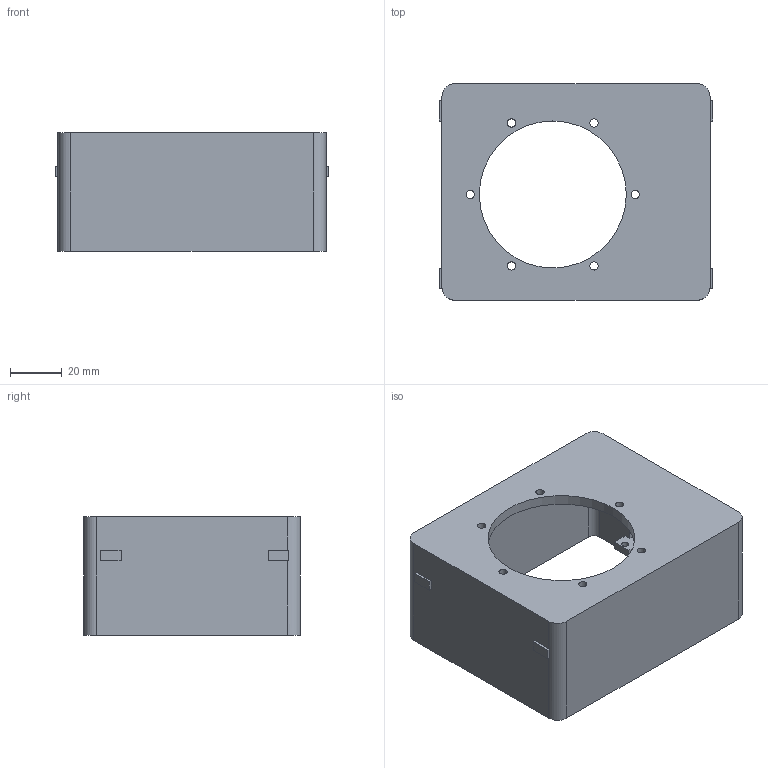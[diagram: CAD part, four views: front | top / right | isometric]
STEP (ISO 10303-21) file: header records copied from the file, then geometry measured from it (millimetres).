
FILE_DESCRIPTION(('Open CASCADE Model'),'2;1');
FILE_NAME('Open CASCADE Shape Model','2026-11-05T01:47:41',('Author'),( 'Open CASCADE'),'Open CASCADE STEP processor 7.8','Open CASCADE 7.8' ,'Unknown');
FILE_SCHEMA(('AUTOMOTIVE_DESIGN { 1 0 10303 214 1 1 1 1 }'));
Length unit declared in the file: millimetre
Products named in the file (1): Open CASCADE STEP translator 7.8 4
Bounding box: 106 x 84 x 46 mm (x, y, z)
Volume: 81849.1 mm3; surface area: 44381 mm2
Topology: 1 solids, 1 shells, 100 faces, 279 edges, 186 vertices
Faces by surface type: plane 77, cylinder 23
Full cylindrical faces by diameter (mm): 2.7 x8, 3.2 x6, 57 x1
Entity records: 6968 total; most frequent: CARTESIAN_POINT 1256, DIRECTION 1075, LINE 721, VECTOR 721, ORIENTED_EDGE 558, PCURVE 558, DEFINITIONAL_REPRESENTATION 558, EDGE_CURVE 279
